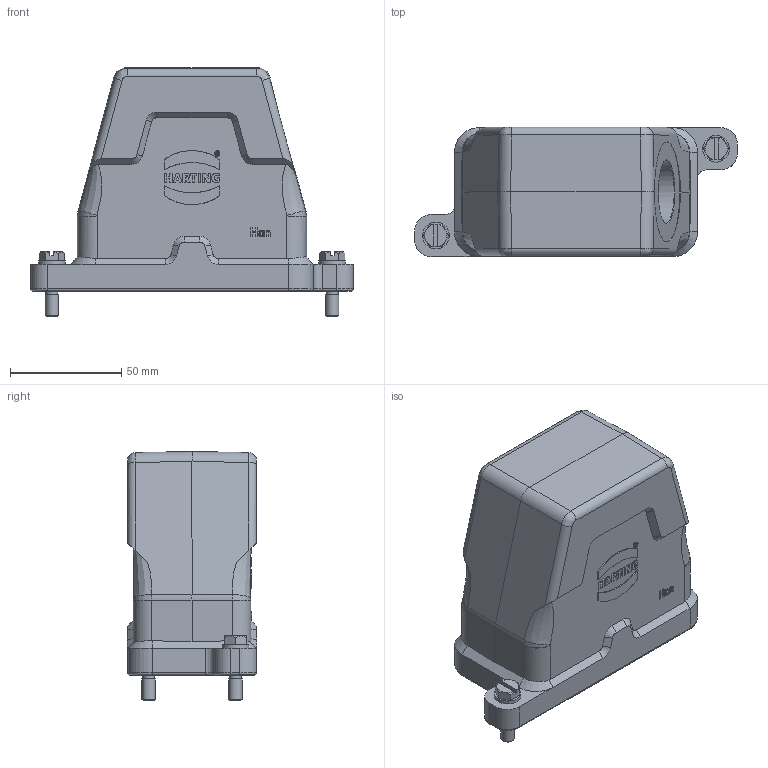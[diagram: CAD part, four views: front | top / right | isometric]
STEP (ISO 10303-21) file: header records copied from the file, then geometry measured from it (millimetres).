
FILE_DESCRIPTION(/* description */ (''),/* implementation_level */ '2;1');
FILE_NAME(/* name */ '100767465ugm000_a.stp',/* time_stamp */ '2022-03-12T07:11:40+01:00',/* author */ (''),/* organization */ (''),/* preprocessor_version */ 'ST-DEVELOPER v16.7',/* originating_system */ 'SIEMENS PLM Software NX 1911',/* authorisation */ '');
FILE_SCHEMA (('AUTOMOTIVE_DESIGN { 1 0 10303 214 3 1 1 1 }'));
Length unit declared in the file: millimetre
Products named in the file (1): 100767465ugm000_a
Bounding box: 145 x 58 x 111.9 mm (x, y, z)
Volume: 181840.5 mm3; surface area: 69955.6 mm2
Topology: 3 solids, 5 shells, 530 faces, 1360 edges, 870 vertices
Faces by surface type: plane 258, cylinder 113, bspline 72, cone 58, extrusion 29
Full cylindrical faces by diameter (mm): 1.75 x1, 2.453 x1, 3 x4, 5 x2, 5.3 x4, 6 x2, 6.2 x4, 6.4 x2, 12 x2, 13 x2, 14 x2, 28.3 x1, 45 x1
Entity records: 23772 total; most frequent: CARTESIAN_POINT 8205, ORIENTED_EDGE 2504, DIRECTION 2128, EDGE_CURVE 1252, VERTEX_POINT 813, VECTOR 756, LINE 727, AXIS2_PLACEMENT_3D 686
